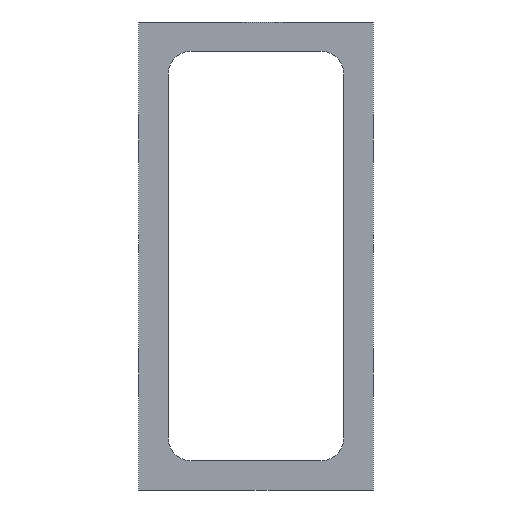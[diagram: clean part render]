
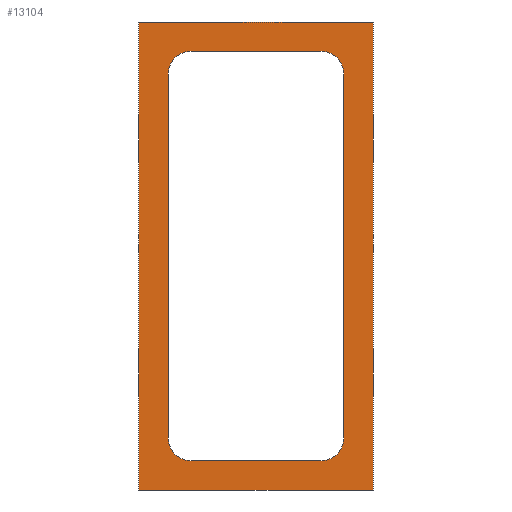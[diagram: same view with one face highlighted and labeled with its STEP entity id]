
A CAD part, front view. The second image highlights one B-rep face of the part: STEP entity #13104.
In plain terms, the highlighted planar face has unit normal (0, -1, 0).
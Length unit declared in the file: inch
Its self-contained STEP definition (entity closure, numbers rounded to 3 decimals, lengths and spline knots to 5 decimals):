
#1132=FACE_BOUND('',#3404,.T.);
#1142=PLANE('',#14814);
#1714=FACE_OUTER_BOUND('',#3403,.T.);
#3403=EDGE_LOOP('',(#11959,#11960,#11961,#11962));
#3404=EDGE_LOOP('',(#11963,#11964,#11965,#11966,#11967,#11968,#11969,#11970));
#3407=LINE('',#18807,#3993);
#3411=LINE('',#19005,#3997);
#3415=LINE('',#19389,#4001);
#3420=LINE('',#19587,#4006);
#3979=LINE('',#22195,#4565);
#3983=LINE('',#22203,#4569);
#3986=LINE('',#22209,#4572);
#3989=LINE('',#22214,#4575);
#3993=VECTOR('',#14827,0.3937);
#3997=VECTOR('',#15025,0.3937);
#4001=VECTOR('',#15409,0.3937);
#4006=VECTOR('',#15608,0.3937);
#4565=VECTOR('',#18773,0.3937);
#4569=VECTOR('',#18779,0.3937);
#4572=VECTOR('',#18784,0.3937);
#4575=VECTOR('',#18789,0.3937);
#4577=CIRCLE('',#13120,0.0975);
#4672=CIRCLE('',#13217,0.0975);
#4860=CIRCLE('',#13407,0.0975);
#4955=CIRCLE('',#13504,0.0975);
#5701=VERTEX_POINT('',#18797);
#5702=VERTEX_POINT('',#18798);
#5705=VERTEX_POINT('',#18806);
#5800=VERTEX_POINT('',#18998);
#5802=VERTEX_POINT('',#19004);
#5990=VERTEX_POINT('',#19382);
#5992=VERTEX_POINT('',#19388);
#6087=VERTEX_POINT('',#19580);
#6833=VERTEX_POINT('',#22193);
#6834=VERTEX_POINT('',#22194);
#6837=VERTEX_POINT('',#22202);
#6839=VERTEX_POINT('',#22208);
#6841=EDGE_CURVE('',#5701,#5702,#4577,.T.);
#6845=EDGE_CURVE('',#5702,#5705,#3407,.T.);
#6941=EDGE_CURVE('',#5705,#5800,#4672,.T.);
#6944=EDGE_CURVE('',#5800,#5802,#3411,.T.);
#7133=EDGE_CURVE('',#5802,#5990,#4860,.T.);
#7136=EDGE_CURVE('',#5990,#5992,#3415,.T.);
#7232=EDGE_CURVE('',#5992,#6087,#4955,.T.);
#7236=EDGE_CURVE('',#6087,#5701,#3420,.T.);
#8539=EDGE_CURVE('',#6833,#6834,#3979,.T.);
#8543=EDGE_CURVE('',#6837,#6833,#3983,.T.);
#8546=EDGE_CURVE('',#6839,#6837,#3986,.T.);
#8549=EDGE_CURVE('',#6834,#6839,#3989,.T.);
#11959=ORIENTED_EDGE('',*,*,#8549,.F.);
#11960=ORIENTED_EDGE('',*,*,#8539,.F.);
#11961=ORIENTED_EDGE('',*,*,#8543,.F.);
#11962=ORIENTED_EDGE('',*,*,#8546,.F.);
#11963=ORIENTED_EDGE('',*,*,#6841,.F.);
#11964=ORIENTED_EDGE('',*,*,#7236,.F.);
#11965=ORIENTED_EDGE('',*,*,#7232,.F.);
#11966=ORIENTED_EDGE('',*,*,#7136,.F.);
#11967=ORIENTED_EDGE('',*,*,#7133,.F.);
#11968=ORIENTED_EDGE('',*,*,#6944,.F.);
#11969=ORIENTED_EDGE('',*,*,#6941,.F.);
#11970=ORIENTED_EDGE('',*,*,#6845,.F.);
#13104=ADVANCED_FACE('',(#1714,#1132),#1142,.F.);
#13120=AXIS2_PLACEMENT_3D('',#18799,#14819,#14820);
#13217=AXIS2_PLACEMENT_3D('',#18999,#15018,#15019);
#13407=AXIS2_PLACEMENT_3D('',#19383,#15402,#15403);
#13504=AXIS2_PLACEMENT_3D('',#19581,#15600,#15601);
#14814=AXIS2_PLACEMENT_3D('',#22217,#18793,#18794);
#14819=DIRECTION('center_axis',(0.,-1.,0.));
#14820=DIRECTION('ref_axis',(-0.707,0.,-0.707));
#14827=DIRECTION('',(1.,0.,0.));
#15018=DIRECTION('center_axis',(0.,-1.,0.));
#15019=DIRECTION('ref_axis',(0.707,0.,-0.707));
#15025=DIRECTION('',(0.,0.,1.));
#15402=DIRECTION('center_axis',(0.,-1.,0.));
#15403=DIRECTION('ref_axis',(0.707,0.,0.707));
#15409=DIRECTION('',(-1.,0.,0.));
#15600=DIRECTION('center_axis',(0.,-1.,0.));
#15601=DIRECTION('ref_axis',(-0.707,0.,0.707));
#15608=DIRECTION('',(0.,0.,-1.));
#18773=DIRECTION('',(1.,0.,0.));
#18779=DIRECTION('',(0.,0.,1.));
#18784=DIRECTION('',(-1.,0.,0.));
#18789=DIRECTION('',(0.,0.,-1.));
#18793=DIRECTION('center_axis',(0.,1.,0.));
#18794=DIRECTION('ref_axis',(1.,0.,0.));
#18797=CARTESIAN_POINT('',(-0.375,0.,-0.7775));
#18798=CARTESIAN_POINT('',(-0.2775,0.,-0.875));
#18799=CARTESIAN_POINT('Origin',(-0.2775,0.,-0.7775));
#18806=CARTESIAN_POINT('',(0.2775,0.,-0.875));
#18807=CARTESIAN_POINT('',(0.375,0.,-0.875));
#18998=CARTESIAN_POINT('',(0.375,0.,-0.7775));
#18999=CARTESIAN_POINT('Origin',(0.2775,0.,-0.7775));
#19004=CARTESIAN_POINT('',(0.375,0.,0.7775));
#19005=CARTESIAN_POINT('',(0.375,0.,0.875));
#19382=CARTESIAN_POINT('',(0.2775,0.,0.875));
#19383=CARTESIAN_POINT('Origin',(0.2775,0.,0.7775));
#19388=CARTESIAN_POINT('',(-0.2775,0.,0.875));
#19389=CARTESIAN_POINT('',(-0.375,0.,0.875));
#19580=CARTESIAN_POINT('',(-0.375,0.,0.7775));
#19581=CARTESIAN_POINT('Origin',(-0.2775,0.,0.7775));
#19587=CARTESIAN_POINT('',(-0.375,0.,-0.875));
#22193=CARTESIAN_POINT('',(-0.5,0.,1.));
#22194=CARTESIAN_POINT('',(0.5,0.,1.));
#22195=CARTESIAN_POINT('',(-0.5,0.,1.));
#22202=CARTESIAN_POINT('',(-0.5,0.,-1.));
#22203=CARTESIAN_POINT('',(-0.5,0.,-1.));
#22208=CARTESIAN_POINT('',(0.5,0.,-1.));
#22209=CARTESIAN_POINT('',(0.5,0.,-1.));
#22214=CARTESIAN_POINT('',(0.5,0.,1.));
#22217=CARTESIAN_POINT('Origin',(0.,0.,0.));
